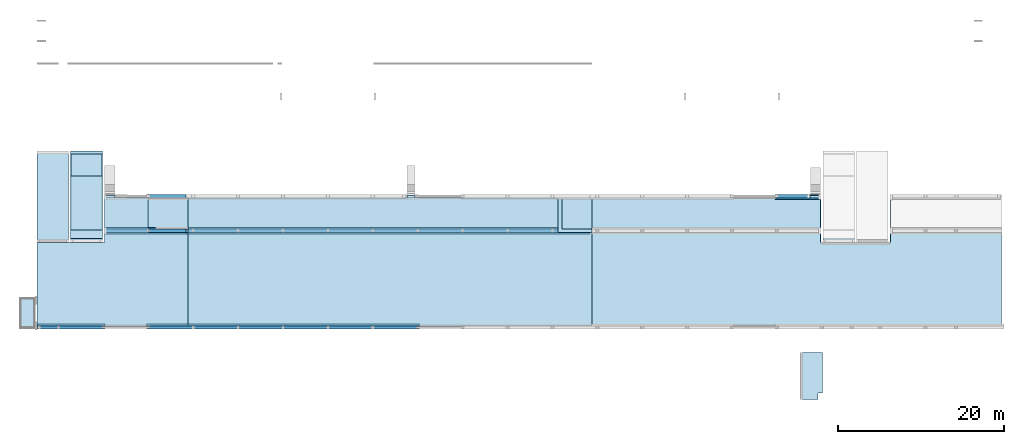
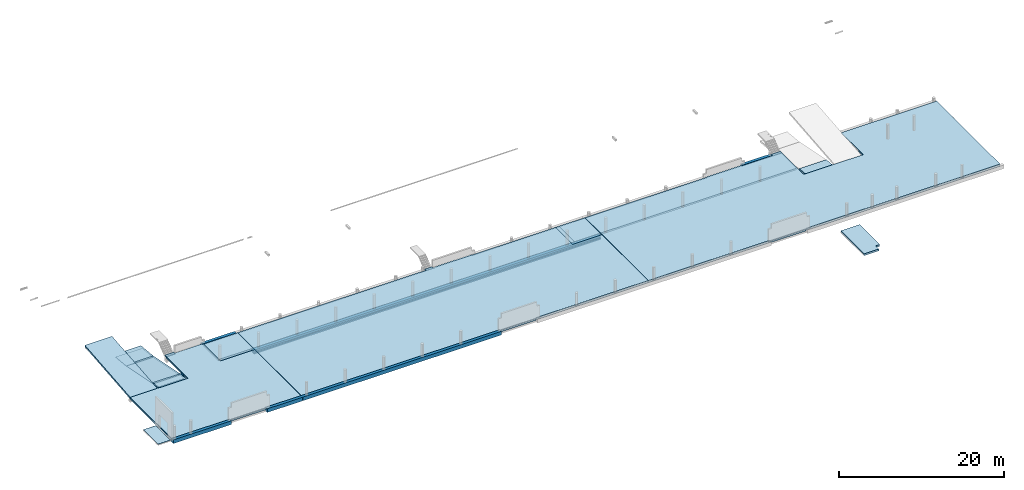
# One storey, part 3 of 6: 26 slabs, 6 beams, 2 openings.
"""IFC2X3 building model written with IfcOpenShell, lengths in millimetres."""

from ifc_helpers import new_model, entity, si_unit, converted_unit, derived_unit, direction, frame, frame_2d, origin, origin_2d_with_axis, place, context, subcontext, project, spatial, polyline, rectangle, outline, extrude, clip, halfspace, faceted_brep, source, transform, mapped, material, layer, layer_set, layer_usage, type_object, type_shapes, element, save


model = new_model("IFC2X3")

# Units and contexts
model_context = context("Model", 3, precision=0.01, world=origin(), true_north=direction((6.12303176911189e-17, 1.0)))
body_context = subcontext(model_context, "Body", "Model", "MODEL_VIEW")
ifc_project = project(units=[si_unit("LENGTHUNIT", "METRE", prefix="MILLI"), si_unit("AREAUNIT", "SQUARE_METRE"), si_unit("VOLUMEUNIT", "CUBIC_METRE"), converted_unit("PLANEANGLEUNIT", "DEGREE", entity("IfcRatioMeasure", 0.0174532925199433), si_unit("PLANEANGLEUNIT", "RADIAN"), dimensions=[0, 0, 0, 0, 0, 0, 0]), si_unit("MASSUNIT", "GRAM", prefix="KILO"), derived_unit("MASSDENSITYUNIT", [(si_unit("MASSUNIT", "GRAM", prefix="KILO"), 1), (si_unit("LENGTHUNIT", "METRE"), -3)]), si_unit("TIMEUNIT", "SECOND"), si_unit("FREQUENCYUNIT", "HERTZ"), si_unit("THERMODYNAMICTEMPERATUREUNIT", "DEGREE_CELSIUS"), derived_unit("THERMALTRANSMITTANCEUNIT", [(si_unit("MASSUNIT", "GRAM", prefix="KILO"), 1), (si_unit("THERMODYNAMICTEMPERATUREUNIT", "KELVIN"), -1), (si_unit("TIMEUNIT", "SECOND"), -3)]), derived_unit("VOLUMETRICFLOWRATEUNIT", [(si_unit("LENGTHUNIT", "METRE"), 3), (si_unit("TIMEUNIT", "SECOND"), -1)]), si_unit("ELECTRICCURRENTUNIT", "AMPERE"), si_unit("ELECTRICVOLTAGEUNIT", "VOLT"), si_unit("POWERUNIT", "WATT"), si_unit("FORCEUNIT", "NEWTON", prefix="KILO"), si_unit("ILLUMINANCEUNIT", "LUX"), si_unit("LUMINOUSFLUXUNIT", "LUMEN"), si_unit("LUMINOUSINTENSITYUNIT", "CANDELA"), derived_unit("USERDEFINED", [(si_unit("MASSUNIT", "GRAM", prefix="KILO"), -1), (si_unit("LENGTHUNIT", "METRE"), -2), (si_unit("TIMEUNIT", "SECOND"), 3), (si_unit("LUMINOUSFLUXUNIT", "LUMEN"), 1)]), derived_unit("LINEARVELOCITYUNIT", [(si_unit("LENGTHUNIT", "METRE"), 1), (si_unit("TIMEUNIT", "SECOND"), -1)]), si_unit("PRESSUREUNIT", "PASCAL"), derived_unit("USERDEFINED", [(si_unit("LENGTHUNIT", "METRE"), -2), (si_unit("MASSUNIT", "GRAM", prefix="KILO"), 1), (si_unit("TIMEUNIT", "SECOND"), -2)])], contexts=[model_context])

# Site, building, storey
site_placement = place(None, origin())
site = spatial("IfcSite", under=ifc_project, at=site_placement, Name="Default", CompositionType="ELEMENT")
building_placement = place(site_placement, origin())
building = spatial("IfcBuilding", under=site, at=building_placement, Name="niet gebruiken", CompositionType="ELEMENT")
storey_placement = place(building_placement, frame((0.0, 0.0, 8370.0)))
storey = spatial("IfcBuildingStorey", under=building, at=storey_placement, Name="02a eerste tussenverdieping", CompositionType="ELEMENT", Elevation=8369.99999999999)

# Beams
ifc_material_1 = material(Name="NLRS_f2_beton prefab")
beam_type_1 = type_object("IfcBeamType", Name="NLRS_28.11_SF_WPB_prefabbeton balk enkele sponning_gen:600x540/200x200", PredefinedType="BEAM")
beam_1_placement = place(storey_placement, frame((8245.0, 8996.0, -530.0)))
element("IfcBeam", 1, at=beam_1_placement, inside=storey, type_object=beam_type_1, material=ifc_material_1, Name="NLRS_28.11_SF_WPB_prefabbeton balk enkele sponning_gen:600x540/200x200", ObjectType="NLRS_28.11_SF_WPB_prefabbeton balk enkele sponning_gen:600x540/200x200", context=body_context, shape_type="Brep", body=[
    faceted_brep([(0.0, 0.0, 0.0), (0.0, 0.0, 540.0), (0.0, 400.0, 540.0), (0.0, 400.0, 530.0), (0.0, 400.0, 460.0), (0.0, 400.0, 200.0), (0.0, 600.0, 200.0), (0.0, 600.0, 0.0), (8155.0, 600.0, 200.0), (8155.0, 600.0, 0.0), (8155.0, 400.0, 540.0), (8155.0, 0.0, 540.0), (8155.0, 0.0, 0.0), (8155.0, 400.0, 200.0), (8155.0, 400.0, 460.0), (8155.0, 325.0, 460.0), (8155.0, 325.0, 530.0), (8155.0, 400.0, 530.0), (7755.0, 400.0, 530.0), (7755.0, 400.0, 460.0), (7755.0, 325.0, 460.0), (7755.0, 325.0, 530.0)], [[[0, 1, 2, 3, 4, 5, 6, 7]], [[7, 6, 8, 9]], [[10, 11, 12, 9, 8, 13, 14, 15, 16, 17]], [[2, 1, 11, 10]], [[2, 10, 17, 18, 19, 14, 13, 5, 4, 3]], [[6, 5, 13, 8]], [[0, 7, 9, 12]], [[1, 0, 12, 11]], [[19, 20, 15, 14]], [[20, 21, 16, 15]], [[20, 19, 18, 21]], [[21, 18, 17, 16]]]),
])
beam_2_placement = place(storey_placement, frame((97000.0, 24576.0, -530.0)))
element("IfcBeam", 2, at=beam_2_placement, inside=storey, type_object=beam_type_1, material=ifc_material_1, Name="NLRS_28.11_SF_WPB_prefabbeton balk enkele sponning_gen:600x540/200x200", ObjectType="NLRS_28.11_SF_WPB_prefabbeton balk enkele sponning_gen:600x540/200x200", context=body_context, shape_type="Brep", body=[
    faceted_brep([(0.0, 600.0, 0.0), (0.0, 0.0, 0.0), (0.0, 0.0, 200.0), (0.0, 200.0, 200.0), (0.0, 200.0, 460.0), (0.0, 200.0, 530.0), (0.0, 200.0, 540.0), (0.0, 600.0, 540.0), (5455.0, 200.0, 200.0), (5455.0, 0.0, 200.0), (5455.0, 0.0, 0.0), (5455.0, 600.0, 0.0), (5455.0, 600.0, 390.0), (5455.0, 200.0, 390.0), (4205.0, 200.0, 540.0), (4205.0, 600.0, 540.0), (4205.0, 200.0, 390.0), (4205.0, 200.0, 460.0), (4205.0, 200.0, 530.0), (4205.0, 600.0, 390.0)], [[[0, 1, 2, 3, 4, 5, 6, 7]], [[8, 9, 10, 11, 12, 13]], [[7, 6, 14, 15]], [[3, 8, 13, 16, 17, 18, 14, 6, 5, 4]], [[3, 2, 9, 8]], [[2, 1, 10, 9]], [[1, 0, 11, 10]], [[0, 7, 15, 19, 12, 11]], [[15, 14, 18, 17, 16, 19]], [[19, 16, 13, 12]]]),
])
beam_type_2 = type_object("IfcBeamType", Name="NLRS_28.11_SF_WPB_prefabbeton balk dubbele sponning_gen:800x460/200x260/200x260", PredefinedType="BEAM")
beam_3_placement = place(storey_placement, frame((26150.0, 20446.0, -530.0)))
element("IfcBeam", 3, at=beam_3_placement, inside=storey, type_object=beam_type_2, material=ifc_material_1, Name="NLRS_28.11_SF_WPB_prefabbeton balk dubbele sponning_gen:800x460/200x260/200x260", ObjectType="NLRS_28.11_SF_WPB_prefabbeton balk dubbele sponning_gen:800x460/200x260/200x260", context=body_context, shape_type="Brep", body=[
    faceted_brep([(0.0, 600.0, 460.0), (0.0, 600.0, 0.0), (0.0, 0.0, 0.0), (0.0, 0.0, 200.0), (0.0, 200.0, 200.0), (0.0, 200.0, 460.0), (48580.0, 600.0, 460.0), (48580.0, 200.0, 460.0), (48580.0, 200.0, 200.0), (48580.0, 0.0, 200.0), (48580.0, 0.0, 0.0), (48580.0, 800.0, 0.0), (48580.0, 800.0, 200.0), (48580.0, 600.0, 200.0), (220.0, 600.0, 200.0), (220.0, 600.0, 0.0), (220.0, 800.0, 200.0), (220.0, 800.0, 0.0)], [[[0, 1, 2, 3, 4, 5]], [[6, 7, 8, 9, 10, 11, 12, 13]], [[6, 0, 5, 7]], [[3, 2, 10, 9]], [[6, 13, 14, 15, 1, 0]], [[13, 12, 16, 14]], [[5, 4, 8, 7]], [[4, 3, 9, 8]], [[12, 11, 17, 16]], [[11, 10, 2, 1, 15, 17]], [[15, 14, 16, 17]]]),
])
beam_4_placement = place(storey_placement, frame((16345.0, 20446.0, -530.0)))
element("IfcBeam", 4, at=beam_4_placement, inside=storey, type_object=beam_type_2, material=ifc_material_1, Name="NLRS_28.11_SF_WPB_prefabbeton balk dubbele sponning_gen:800x460/200x260/200x260", ObjectType="NLRS_28.11_SF_WPB_prefabbeton balk dubbele sponning_gen:800x460/200x260/200x260", context=body_context, shape_type="Brep", body=[
    faceted_brep([(0.0, 600.0, 460.0), (0.0, 600.0, 200.0), (0.0, 800.0, 200.0), (0.0, 800.0, 0.0), (0.0, 0.0, 0.0), (0.0, 0.0, 200.0), (0.0, 200.0, 200.0), (0.0, 200.0, 460.0), (9785.0, 600.0, 0.0), (9785.0, 600.0, 460.0), (9785.0, 200.0, 460.0), (9785.0, 200.0, 200.0), (9785.0, 0.0, 200.0), (9785.0, 0.0, 0.0), (6105.0, 600.0, 0.0), (6105.0, 600.0, 200.0), (6105.0, 800.0, 200.0), (6105.0, 800.0, 0.0)], [[[0, 1, 2, 3, 4, 5, 6, 7]], [[8, 9, 10, 11, 12, 13]], [[9, 0, 7, 10]], [[5, 4, 13, 12]], [[1, 0, 9, 8, 14, 15]], [[2, 1, 15, 16]], [[7, 6, 11, 10]], [[6, 5, 12, 11]], [[3, 2, 16, 17]], [[4, 3, 17, 14, 8, 13]], [[15, 14, 17, 16]]]),
])
beam_type_3 = type_object("IfcBeamType", Name="600x540/200x200", PredefinedType="BEAM", material=ifc_material_1)
shared_shape = source(origin(), body_context, "Body", "SolidModel", [
    extrude(outline(polyline([(-250.0, -108.75), (-250.0, -308.749999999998), (350.0, -308.75), (350.0, 231.25), (-50.0, 231.250000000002), (-50.0, 221.250000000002), (-50.0, 151.250000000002), (-50.0, -108.75), (-250.0, -108.75)])), frame((26370.0, 9346.0, 8148.74999999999), z_axis=(-1.0, 0.0, 0.0), x_axis=(0.0, -1.0, 0.0)), (0.0, 0.0, -1.0), 27829.9999999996),
    faceted_brep([(21400.0, 8996.0, 7840.0), (21400.0, 8996.0, 8380.0), (21400.0, 9396.0, 8380.0), (21400.0, 9396.0, 8370.0), (21400.0, 9321.0, 8370.0), (21400.0, 9321.0, 8300.0), (21400.0, 9396.0, 8300.0), (21400.0, 9396.0, 8040.0), (21400.0, 9596.0, 8040.0), (21400.0, 9596.0, 7840.0), (26350.0, 9596.0, 8040.0), (26350.0, 9596.0, 7840.0), (26350.0, 8996.0, 8380.0), (26350.0, 9396.0, 8380.0), (21800.0, 9396.0, 8300.0), (21800.0, 9396.0, 8370.0), (26350.0, 9396.0, 8370.0), (26350.0, 9396.0, 8300.0), (26350.0, 9396.0, 8040.0), (26350.0, 8996.0, 7840.0), (21800.0, 9321.0, 8300.0), (21800.0, 9321.0, 8370.0)], [[[0, 1, 2, 3, 4, 5, 6, 7, 8, 9]], [[9, 8, 10, 11]], [[2, 1, 12, 13]], [[7, 6, 14, 15, 3, 2, 13, 16, 17, 18]], [[8, 7, 18, 10]], [[0, 9, 11, 19]], [[1, 0, 19, 12]], [[20, 14, 6, 5]], [[14, 20, 21, 15]], [[21, 20, 5, 4]], [[15, 21, 4, 3]], [[11, 10, 18, 17, 16, 13, 12, 19]]]),
])
type_shapes(beam_type_3, [shared_shape])
beam_5_placement = place(storey_placement, frame((0.0, 0.0, -8370.0)))
element("IfcBeam", 5, at=beam_5_placement, inside=storey, type_object=beam_type_3, material=ifc_material_1, Name="NLRS_28.11_SF_WPB_prefabbeton balk enkele sponning_gen:600x540/200x200", ObjectType="600x540/200x200", context=body_context, shape_type="MappedRepresentation", body=[
    mapped(shared_shape, transform((0.0, 0.0, 0.0), scale=1.0)),
])
beam_type_4 = type_object("IfcBeamType", Name="NLRS_28.11_SF_WPB_prefabbeton balk recht_gen:400x540", PredefinedType="BEAM")
beam_6_placement = place(storey_placement, frame((21400.0, 24776.0, -530.0)))
element("IfcBeam", 6, at=beam_6_placement, inside=storey, type_object=beam_type_4, material=ifc_material_1, Name="NLRS_28.11_SF_WPB_prefabbeton balk recht_gen:400x540", ObjectType="NLRS_28.11_SF_WPB_prefabbeton balk recht_gen:400x540", context=body_context, shape_type="Brep", body=[
    faceted_brep([(0.0, 0.0, 540.0), (0.0, 400.0, 540.0), (0.0, 400.0, 0.0), (0.0, 0.0, 0.0), (0.0, 0.0, 460.0), (0.0, 75.0, 460.0), (0.0, 75.0, 530.0), (0.0, 0.0, 530.0), (4730.0, 0.0, 540.0), (4730.0, 400.0, 540.0), (400.0, 0.0, 460.0), (400.0, 75.0, 460.0), (200.0, 75.0, 460.0), (400.0, 75.0, 530.0), (400.0, 0.0, 530.0), (200.0, 75.0, 530.0), (4730.0, 0.0, 530.0), (4730.0, 0.0, 460.0), (4730.0, 0.0, 0.0), (4730.0, 400.0, 0.0)], [[[0, 1, 2, 3, 4, 5, 6, 7]], [[8, 9, 1, 0]], [[5, 4, 10, 11, 12]], [[13, 14, 7, 6, 15]], [[5, 12, 11, 13, 15, 6]], [[11, 10, 14, 13]], [[9, 8, 16, 17, 18, 19]], [[3, 18, 17, 16, 8, 0, 7, 14, 10, 4]], [[3, 2, 19, 18]], [[2, 1, 9, 19]]]),
])

# Slabs
ifc_layer_1 = layer(ifc_material_1, 255.0)
ifc_layer_set_1 = layer_set([ifc_layer_1], Name="Floor:NLRS_23.21_FL_kanaalplaat d=255_gen")
ifc_layer_usage_1 = layer_usage(ifc_layer_set_1, "AXIS3", "POSITIVE", 0.0)
slab_1_placement = place(storey_placement, origin())
element("IfcSlab", 7, at=slab_1_placement, inside=storey, material=ifc_layer_usage_1, Name="Floor:NLRS_23.21_FL_kanaalplaat d=255_gen", ObjectType="Floor:NLRS_23.21_FL_kanaalplaat d=255_gen", PredefinedType="FLOOR", context=body_context, shape_type="SweptSolid", body=[
    extrude(outline(polyline([(-4225.0, -9503.0), (5765.0, -9503.0), (5765.0, -1403.0), (6985.0, -1403.0), (6985.0, 8602.0), (-4225.0, 8602.0), (-4225.0, 3632.0), (-4300.0, 3632.0), (-4300.0, -1328.0), (-4225.0, -1328.0), (-4225.0, -9503.0)])), frame((17748.0, 13641.0, -70.0), z_axis=(0.0, 0.0, -1.0), x_axis=(0.0, 1.0, 0.0)), (0.0, 0.0, 1.0), 255.000000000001),
])
ifc_layer_usage_2 = layer_usage(ifc_layer_set_1, "AXIS3", "POSITIVE", 0.0)
slab_2_placement = place(storey_placement, origin())
element("IfcSlab", 8, at=slab_2_placement, inside=storey, material=ifc_layer_usage_2, Name="Floor:NLRS_23.21_FL_kanaalplaat d=255_gen", ObjectType="Floor:NLRS_23.21_FL_kanaalplaat d=255_gen", PredefinedType="FLOOR", context=body_context, shape_type="SweptSolid", body=[
    extrude(outline(polyline([(-2789.15026572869, -3258.75000000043), (902.050088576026, -3258.75000000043), (902.050088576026, -483.749999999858), (977.050088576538, -483.749999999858), (977.050088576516, 1776.25000000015), (910.050088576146, 1776.25000000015), (910.050088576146, 1966.25000000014), (-2789.15026572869, 1966.25000000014), (-2789.15026572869, -3258.75000000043)])), frame((19603.7499999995, 23853.9499114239, -70.0), z_axis=(0.0, 0.0, -1.0), x_axis=(0.0, 1.0, 0.0)), (0.0, 0.0, 1.0), 255.000000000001),
])
ifc_layer_usage_3 = layer_usage(ifc_layer_set_1, "AXIS3", "POSITIVE", 0.0)
slab_3_placement = place(storey_placement, origin())
element("IfcSlab", 9, at=slab_3_placement, inside=storey, material=ifc_layer_usage_3, Name="Floor:NLRS_23.21_FL_kanaalplaat d=255_gen", ObjectType="Floor:NLRS_23.21_FL_kanaalplaat d=255_gen", PredefinedType="FLOOR", context=body_context, shape_type="SweptSolid", body=[
    extrude(outline(polyline([(-2783.75, -27310.0), (8426.2500000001, -27310.0), (8426.25000000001, 21270.0), (-2783.75000000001, 21270.0), (-2783.75000000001, 5500.0), (-2858.75000000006, 5500.0), (-2858.75000000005, 540.0), (-2783.75, 540.0), (-2783.75, -27310.0)])), frame((53680.0, 12199.7500000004, -70.0), z_axis=(0.0, 0.0, -1.0), x_axis=(0.0, 1.0, 0.0)), (0.0, 0.0, 1.0), 255.000000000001),
])
ifc_layer_usage_4 = layer_usage(ifc_layer_set_1, "AXIS3", "POSITIVE", 0.0)
slab_4_placement = place(storey_placement, origin())
element("IfcSlab", 10, at=slab_4_placement, inside=storey, material=ifc_layer_usage_4, Name="Floor:NLRS_23.21_FL_kanaalplaat d=255_gen", ObjectType="Floor:NLRS_23.21_FL_kanaalplaat d=255_gen", PredefinedType="FLOOR", context=body_context, shape_type="SweptSolid", body=[
    extrude(outline(polyline([(-5389.16666666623, -25275.0), (5820.83333333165, -25275.0), (5820.8333333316, 2210.0), (4600.8333333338, 2210.0), (4600.83333333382, 10600.0), (5820.83333333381, 10600.0), (5820.83333333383, 23955.0), (-5389.16666666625, 23955.0), (-5389.16666666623, -3265.0), (-5464.16666666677, -3265.0), (-5464.16666666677, -8225.0), (-5389.16666666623, -8225.0), (-5389.16666666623, -25275.0)])), frame((100245.0, 14805.1666666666, -70.0), z_axis=(0.0, 0.0, -1.0), x_axis=(0.0, 1.0, 0.0)), (0.0, 0.0, 1.0), 255.000000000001),
])
ifc_material_2 = material(Name="NLRS_f2_beton ihwg")
ifc_layer_2 = layer(ifc_material_2, 70.0)
ifc_layer_set_2 = layer_set([ifc_layer_2], Name="Floor:NLRS_23.21_FL_druklaag d=70 - gevlinderd en ingestrooid_gen")
ifc_layer_usage_5 = layer_usage(ifc_layer_set_2, "AXIS3", "POSITIVE", 0.0)
slab_5_placement = place(storey_placement, origin())
element("IfcSlab", 11, at=slab_5_placement, inside=storey, material=ifc_layer_usage_5, Name="Floor:NLRS_23.21_FL_druklaag d=70 - gevlinderd en ingestrooid_gen", ObjectType="Floor:NLRS_23.21_FL_druklaag d=70 - gevlinderd en ingestrooid_gen", PredefinedType="FLOOR", context=body_context, shape_type="SweptSolid", body=[
    extrude(outline(polyline([(-9692.22222222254, -24105.0), (5687.77777777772, -24105.0), (5687.7777777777, -7075.0), (5762.77777777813, -7075.0), (5762.77777777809, -2075.0), (5687.77777777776, -2075.0), (5687.77777777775, 2130.0), (5987.7777777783, 2130.0), (5987.7777777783, 3400.0), (337.77777777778, 3400.0), (337.777777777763, 11750.0), (5687.77777777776, 11750.0), (5687.77777777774, 25125.0), (-9692.2222222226, 25125.0), (-9692.22222222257, -2075.0), (-9767.22222222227, -2075.0), (-9767.22222222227, -7075.0), (-9692.22222222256, -7075.0), (-9692.22222222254, -24105.0)])), frame((99075.0, 19088.2222222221, 0.0), z_axis=(0.0, 0.0, -1.0), x_axis=(0.0, 1.0, 0.0)), (0.0, 0.0, 1.0), 70.0000000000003),
])
ifc_layer_usage_6 = layer_usage(ifc_layer_set_2, "AXIS3", "POSITIVE", 0.0)
slab_6_placement = place(storey_placement, origin())
element("IfcSlab", 12, at=slab_6_placement, inside=storey, material=ifc_layer_usage_6, Name="Floor:NLRS_23.21_FL_druklaag d=70 - gevlinderd en ingestrooid_gen", ObjectType="Floor:NLRS_23.21_FL_druklaag d=70 - gevlinderd en ingestrooid_gen", PredefinedType="FLOOR", context=body_context, shape_type="SweptSolid", body=[
    extrude(outline(polyline([(-7474.2857142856, -10045.7142857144), (2555.71428571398, -10045.7142857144), (2555.71428571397, -1945.71428571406), (8205.71428571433, -1945.71428571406), (8205.71428571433, -675.71428571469), (7980.71428571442, -675.714285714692), (7980.71428571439, 3329.28571428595), (3755.71428571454, 3329.28571428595), (3755.71428571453, 8079.28571428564), (-7474.2857142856, 8079.28571428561), (-7474.2857142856, 3529.28571428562), (-7549.28571428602, 3529.28571428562), (-7549.28571428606, -2270.71428571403), (-7474.2857142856, -2270.71428571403), (-7474.2857142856, -10045.7142857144)])), frame((18270.714285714, 16870.285714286, 0.0), z_axis=(0.0, 0.0, -1.0), x_axis=(0.0, 1.0, 0.0)), (0.0, 0.0, 1.0), 70.0000000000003),
])
ifc_layer_usage_7 = layer_usage(ifc_layer_set_2, "AXIS3", "POSITIVE", 0.0)
slab_7_placement = place(storey_placement, origin())
element("IfcSlab", 13, at=slab_7_placement, inside=storey, material=ifc_layer_usage_7, Name="Floor:NLRS_23.21_FL_druklaag d=70 - gevlinderd en ingestrooid_gen", ObjectType="Floor:NLRS_23.21_FL_druklaag d=70 - gevlinderd en ingestrooid_gen", PredefinedType="FLOOR", context=body_context, shape_type="SweptSolid", body=[
    extrude(outline(polyline([(-9131.2499999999, -30025.0), (6248.74999999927, -30025.0), (6248.74999999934, -3695.0), (6548.74999999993, -3695.0), (6548.74999999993, -2705.0), (6323.75000000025, -2705.0), (6323.75000000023, 2805.0), (6248.75000000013, 2805.0), (6248.75000000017, 14455.0), (2098.75000000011, 14455.0), (2098.7500000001, 18555.0), (-9131.24999999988, 18555.0), (-9131.24999999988, 2805.0), (-9206.24999999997, 2805.0), (-9206.24999999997, -2195.0), (-9131.24999999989, -2195.0), (-9131.2499999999, -30025.0)])), frame((56395.0, 18527.2499999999, 0.0), z_axis=(0.0, 0.0, -1.0), x_axis=(0.0, 1.0, 0.0)), (0.0, 0.0, 1.0), 70.0000000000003),
])
ifc_layer_usage_8 = layer_usage(ifc_layer_set_1, "AXIS3", "POSITIVE", 0.0)
slab_8_placement = place(storey_placement, origin())
element("IfcSlab", 14, at=slab_8_placement, inside=storey, material=ifc_layer_usage_8, Name="Floor:NLRS_23.21_FL_kanaalplaat d=255_gen", ObjectType="Floor:NLRS_23.21_FL_kanaalplaat d=255_gen", PredefinedType="FLOOR", context=body_context, shape_type="SweptSolid", body=[
    extrude(outline(polyline([(-2786.25000000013, -16636.2500000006), (903.749999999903, -16636.2500000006), (903.749999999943, 413.750000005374), (978.750000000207, 413.750000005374), (978.750000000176, 5373.74999999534), (903.749999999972, 5373.74999999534), (903.749999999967, 10848.7499999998), (-2786.25000000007, 10848.7499999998), (-2786.25000000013, -16636.2500000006)])), frame((91606.2499999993, 23852.25, -70.0), z_axis=(0.0, 0.0, -1.0), x_axis=(0.0, 1.0, 0.0)), (0.0, 0.0, 1.0), 255.000000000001),
])
ifc_layer_usage_9 = layer_usage(ifc_layer_set_1, "AXIS3", "POSITIVE", 0.0)
slab_9_placement = place(storey_placement, origin())
element("IfcSlab", 15, at=slab_9_placement, inside=storey, material=ifc_layer_usage_9, Name="Floor:NLRS_23.21_FL_kanaalplaat d=255_gen", ObjectType="Floor:NLRS_23.21_FL_kanaalplaat d=255_gen", PredefinedType="FLOOR", context=body_context, shape_type="SweptSolid", body=[
    extrude(outline(polyline([(-2786.25000000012, -26385.0), (903.74999999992, -26385.0), (903.74999999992, 1365.0), (978.750000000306, 1365.0), (978.750000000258, 6425.0), (903.74999999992, 6425.0), (903.74999999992, 18595.0), (-2786.25000000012, 18595.0), (-2786.25000000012, -26385.0)])), frame((52755.0, 23852.25, -70.0), z_axis=(0.0, 0.0, -1.0), x_axis=(0.0, 1.0, 0.0)), (0.0, 0.0, 1.0), 255.000000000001),
])
ifc_layer_usage_10 = layer_usage(ifc_layer_set_2, "AXIS3", "POSITIVE", 0.0)
slab_10_placement = place(storey_placement, origin())
element("IfcSlab", 16, at=slab_10_placement, inside=storey, material=ifc_layer_usage_10, Name="Floor:NLRS_23.21_FL_druklaag d=70 - gevlinderd en ingestrooid_gen", ObjectType="Floor:NLRS_23.21_FL_druklaag d=70 - gevlinderd en ingestrooid_gen", PredefinedType="FLOOR", context=body_context, shape_type="SweptSolid", body=[
    extrude(outline(polyline([(-2791.66666666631, -1650.0), (1433.33333333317, -1650.0), (1433.33333333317, -1450.0), (1358.33333333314, -1450.0), (1358.33333333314, 3100.0), (-2791.66666666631, 3100.0), (-2791.66666666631, -1650.0)])), frame((23250.0, 23417.6666666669, 0.0), z_axis=(0.0, 0.0, -1.0), x_axis=(0.0, 1.0, 0.0)), (0.0, 0.0, 1.0), 70.0000000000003),
])
ifc_layer_usage_11 = layer_usage(ifc_layer_set_1, "AXIS3", "POSITIVE", 0.0)
slab_11_placement = place(storey_placement, origin())
element("IfcSlab", 17, at=slab_11_placement, inside=storey, material=ifc_layer_usage_11, Name="Floor:NLRS_23.21_FL_kanaalplaat d=255_gen", ObjectType="Floor:NLRS_23.21_FL_kanaalplaat d=255_gen", PredefinedType="FLOOR", context=body_context, shape_type="SweptSolid", body=[
    extrude(rectangle(XDim=3689.99999999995, YDim=4780.00000000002, at=origin_2d_with_axis()), frame((23960.0, 22911.0, -70.0), z_axis=(0.0, 0.0, -1.0), x_axis=(0.0, 1.0, 0.0)), (0.0, 0.0, 1.0), 255.000000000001),
])
ifc_layer_usage_12 = layer_usage(ifc_layer_set_1, "AXIS3", "POSITIVE", 0.0)
slab_12_placement = place(storey_placement, origin())
element("IfcSlab", 18, at=slab_12_placement, inside=storey, material=ifc_layer_usage_12, Name="Floor:NLRS_23.21_FL_kanaalplaat d=255_gen", ObjectType="Floor:NLRS_23.21_FL_kanaalplaat d=255_gen", PredefinedType="FLOOR", context=body_context, shape_type="SweptSolid", body=[
    extrude(rectangle(XDim=3690.00000000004, YDim=3600.0, at=frame_2d((-2.1600499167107e-12, 0.0), x_axis=(1.0, 0.0))), frame((73150.0, 22911.0, -70.0), z_axis=(0.0, 0.0, -1.0), x_axis=(0.0, 1.0, 0.0)), (0.0, 0.0, 1.0), 255.000000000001),
])
ifc_layer_usage_13 = layer_usage(ifc_layer_set_2, "AXIS3", "POSITIVE", 0.0)
slab_13_placement = place(storey_placement, origin())
element("IfcSlab", 19, at=slab_13_placement, inside=storey, material=ifc_layer_usage_13, Name="Floor:NLRS_23.21_FL_druklaag d=70 - gevlinderd en ingestrooid_gen", ObjectType="Floor:NLRS_23.21_FL_druklaag d=70 - gevlinderd en ingestrooid_gen", PredefinedType="FLOOR", context=body_context, shape_type="SweptSolid", body=[
    extrude(rectangle(XDim=4150.00000000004, YDim=4099.99999999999, at=frame_2d((0.0, 4.32009983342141e-12), x_axis=(1.0, 0.0))), frame((72900.0, 22701.0, 0.0), z_axis=(0.0, 0.0, -1.0), x_axis=(0.0, 1.0, 0.0)), (0.0, 0.0, 1.0), 70.0000000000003),
])
ifc_layer_3 = layer(ifc_material_2, 270.0)
ifc_layer_set_3 = layer_set([ifc_layer_3], Name="Floor:NLRS_23.21_FL_beton ihwg d=270_gen")
ifc_layer_usage_14 = layer_usage(ifc_layer_set_3, "AXIS3", "POSITIVE", 0.0)
slab_14_placement = place(storey_placement, origin())
element("IfcSlab", 20, at=slab_14_placement, inside=storey, material=ifc_layer_usage_14, Name="Floor:NLRS_23.21_FL_beton ihwg d=270_gen", ObjectType="Floor:NLRS_23.21_FL_beton ihwg d=270_gen", PredefinedType="FLOOR", context=body_context, shape_type="SweptSolid", body=[
    extrude(outline(polyline([(-2136.66666666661, -1560.00009290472), (3508.33333333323, -1560.00009290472), (3508.33333333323, 1054.9999070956), (-1371.66666666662, 1054.9999070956), (-1371.66666666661, 505.00018580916), (-2136.66666666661, 505.00018580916), (-2136.66666666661, -1560.00009290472)])), frame((101620.0, 2671.66666666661, 540.0), z_axis=(0.0, 0.0, -1.0), x_axis=(0.0, 1.0, 0.0)), (0.0, 0.0, 1.0), 270.0),
])
ifc_layer_4 = layer(ifc_material_2, 250.0)
ifc_layer_set_4 = layer_set([ifc_layer_4], Name="Floor:NLRS_23.21_FL_breedplaat d=70/250_opgeruwd_schil apart_gen")
ifc_layer_usage_15 = layer_usage(ifc_layer_set_4, "AXIS3", "POSITIVE", 0.0)
slab_15_placement = place(storey_placement, frame((12275.0, 19426.0, -330.955823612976)))
element("IfcSlab", 21, at=slab_15_placement, inside=storey, material=ifc_layer_usage_15, Name="Floor:NLRS_23.21_FL_breedplaat d=70/250_opgeruwd_schil apart_gen", ObjectType="Floor:NLRS_23.21_FL_breedplaat d=70/250_opgeruwd_schil apart_gen", PredefinedType="FLOOR", context=body_context, shape_type="SweptSolid", body=[
    extrude(rectangle(XDim=1507.48134316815, YDim=3799.99999999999, at=frame_2d((0.0, -753.740671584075), x_axis=(0.0, -1.0))), frame((1900.0, 1500.0, 180.955823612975), z_axis=(0.0, 0.0995037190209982, 0.995037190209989), x_axis=(1.0, 0.0, 0.0)), (0.0, 0.0995037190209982, -0.995037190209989), 251.246890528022),
])
ifc_layer_usage_16 = layer_usage(ifc_layer_set_4, "AXIS3", "POSITIVE", 0.0)
slab_16_placement = place(storey_placement, frame((12275.0, 20926.0, -1715.02668383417)))
element("IfcSlab", 22, at=slab_16_placement, inside=storey, material=ifc_layer_usage_16, Name="Floor:NLRS_23.21_FL_breedplaat d=70/250_opgeruwd_schil apart_gen", ObjectType="Floor:NLRS_23.21_FL_breedplaat d=70/250_opgeruwd_schil apart_gen", PredefinedType="FLOOR", context=body_context, shape_type="SweptSolid", body=[
    extrude(rectangle(XDim=6630.69377968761, YDim=3800.0, at=frame_2d((0.0, -3315.34688984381), x_axis=(0.0, -1.0))), frame((1900.0, 6500.0, 255.026683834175), z_axis=(0.0, 0.197566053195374, 0.980289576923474), x_axis=(1.0, 0.0, 0.0)), (0.0, 0.197566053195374, -0.980289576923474), 255.026683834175),
])

# Slab, opening
ifc_layer_usage_17 = layer_usage(ifc_layer_set_4, "AXIS3", "POSITIVE", 0.0)
slab_17_placement = place(storey_placement, frame((12275.0, 27426.0, -2011.24689052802)))
slab_17 = element("IfcSlab", 23, at=slab_17_placement, inside=storey, material=ifc_layer_usage_17, Name="Floor:NLRS_23.21_FL_breedplaat d=70/250_opgeruwd_schil apart_gen", ObjectType="Floor:NLRS_23.21_FL_breedplaat d=70/250_opgeruwd_schil apart_gen", PredefinedType="FLOOR", context=body_context, shape_type="SweptSolid", body=[
    extrude(rectangle(XDim=3799.99999999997, YDim=3014.96268633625, at=frame_2d((0.0, -1507.48134316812), x_axis=(-1.0, 0.0))), frame((1900.0, 3000.0, 251.246890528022), z_axis=(0.0, 0.0995037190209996, 0.995037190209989), x_axis=(1.0, 0.0, 0.0)), (0.0, 0.0995037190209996, -0.995037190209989), 251.246890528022),
])
opening_1_placement = place(slab_17_placement, origin())
element("IfcOpeningElement", 24, at=opening_1_placement, cuts=slab_17, ObjectType="Opening", context=body_context, shape_type="SweptSolid", body=[
    extrude(rectangle(XDim=3760.0, YDim=380.0, at=origin_2d_with_axis()), frame((1900.0, 2810.0, -213.753109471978)), (0.0, 0.0, 1.0), 250.000000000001),
])

# Slabs
ifc_layer_5 = layer(ifc_material_1, 70.0)
ifc_layer_set_5 = layer_set([ifc_layer_5], Name="Floor:NLRS_23.21_FL_breedplaatschil d=70_gen")
ifc_layer_usage_18 = layer_usage(ifc_layer_set_5, "AXIS3", "POSITIVE", 0.0)
slab_18_placement = place(storey_placement, origin())
element("IfcSlab", 25, at=slab_18_placement, inside=storey, material=ifc_layer_usage_18, Name="Floor:NLRS_23.21_FL_breedplaatschil d=70_gen", ObjectType="Floor:NLRS_23.21_FL_breedplaatschil d=70_gen", PredefinedType="FLOOR", context=body_context, shape_type="Clipping", body=[
    clip(clip(extrude(rectangle(XDim=1045.18706459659, YDim=3799.99999999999, at=origin_2d_with_axis()), frame((14175.0, 20406.0, -278.955823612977), z_axis=(0.0, -0.0995037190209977, -0.995037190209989), x_axis=(0.0, 0.995037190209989, -0.0995037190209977)), (0.0995037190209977, 0.0, 0.995037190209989), 70.7000000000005), halfspace(frame((14175.0, 20926.0, -330.955823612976), z_axis=(0.0, 0.0995037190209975, 0.995037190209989), x_axis=(0.0, 0.995037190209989, -0.0995037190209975)), False)), halfspace(frame((14175.0, 20926.0, -401.304952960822), z_axis=(0.0, -0.0995037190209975, -0.995037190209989), x_axis=(0.0, -0.995037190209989, 0.0995037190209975)), False)),
])
ifc_layer_usage_19 = layer_usage(ifc_layer_set_5, "AXIS3", "POSITIVE", 0.0)
slab_19_placement = place(storey_placement, origin())
element("IfcSlab", 26, at=slab_19_placement, inside=storey, material=ifc_layer_usage_19, Name="Floor:NLRS_23.21_FL_breedplaatschil d=70_gen", ObjectType="Floor:NLRS_23.21_FL_breedplaatschil d=70_gen", PredefinedType="FLOOR", context=body_context, shape_type="Clipping", body=[
    clip(clip(extrude(rectangle(XDim=6630.69377968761, YDim=3760.0, at=origin_2d_with_axis()), frame((14175.0, 24176.0, -988.61921236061), z_axis=(0.0, -0.197566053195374, -0.980289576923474), x_axis=(0.0, 0.980289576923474, -0.197566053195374)), (0.197566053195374, 0.0, 0.980289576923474), 72.8432426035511), halfspace(frame((14175.0, 27426.0, -1715.02668383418), z_axis=(0.0, -0.197566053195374, -0.980289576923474), x_axis=(0.0, -0.980289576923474, 0.197566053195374)), False)), halfspace(frame((14175.0, 27426.0, -1643.61921236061), z_axis=(0.0, 0.197566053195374, 0.980289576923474), x_axis=(0.0, 0.980289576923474, -0.197566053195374)), False)),
])
ifc_layer_usage_20 = layer_usage(ifc_layer_set_5, "AXIS3", "POSITIVE", 0.0)
slab_20_placement = place(storey_placement, origin())
element("IfcSlab", 27, at=slab_20_placement, inside=storey, material=ifc_layer_usage_20, Name="Floor:NLRS_23.21_FL_breedplaatschil d=70_gen", ObjectType="Floor:NLRS_23.21_FL_breedplaatschil d=70_gen", PredefinedType="FLOOR", context=body_context, shape_type="Clipping", body=[
    clip(clip(extrude(rectangle(XDim=2653.1671639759, YDim=3759.99999999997, at=origin_2d_with_axis()), frame((14175.0, 28746.0, -1772.89776118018), z_axis=(0.0, -0.0995037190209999, -0.995037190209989), x_axis=(0.0, 0.995037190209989, -0.0995037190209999)), (0.0995037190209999, 0.0, 0.995037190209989), 70.7000000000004), halfspace(frame((14175.0, 30426.0, -2011.24689052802), z_axis=(0.0, -0.0995037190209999, -0.995037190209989), x_axis=(0.0, -0.995037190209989, 0.0995037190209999)), False)), halfspace(frame((14175.0, 30426.0, -1940.89776118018), z_axis=(0.0, 0.0995037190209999, 0.995037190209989), x_axis=(0.0, 0.995037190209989, -0.0995037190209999)), False)),
])
ifc_layer_usage_21 = layer_usage(ifc_layer_set_4, "AXIS3", "POSITIVE", 0.0)
slab_21_placement = place(storey_placement, frame((102725.0, 19426.0, -330.955823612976)))
element("IfcSlab", 28, at=slab_21_placement, inside=storey, material=ifc_layer_usage_21, Name="Floor:NLRS_23.21_FL_breedplaat d=70/250_opgeruwd_schil apart_gen", ObjectType="Floor:NLRS_23.21_FL_breedplaat d=70/250_opgeruwd_schil apart_gen", PredefinedType="FLOOR", context=body_context, shape_type="SweptSolid", body=[
    extrude(rectangle(XDim=3799.99999999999, YDim=1507.48134316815, at=frame_2d((0.0, -753.740671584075), x_axis=(-1.0, 0.0))), frame((1900.0, 1500.0, 180.955823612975), z_axis=(0.0, 0.0995037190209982, 0.995037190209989), x_axis=(1.0, 0.0, 0.0)), (0.0, 0.0995037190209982, -0.995037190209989), 251.246890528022),
])

# Slab, opening
ifc_layer_usage_22 = layer_usage(ifc_layer_set_4, "AXIS3", "POSITIVE", 0.0)
slab_22_placement = place(storey_placement, frame((8225.0, 19426.0, -251.06203611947)))
slab_22 = element("IfcSlab", 29, at=slab_22_placement, inside=storey, material=ifc_layer_usage_22, Name="Floor:NLRS_23.21_FL_breedplaat d=70/250_opgeruwd_schil apart_gen", ObjectType="Floor:NLRS_23.21_FL_breedplaat d=70/250_opgeruwd_schil apart_gen", PredefinedType="FLOOR", context=body_context, shape_type="SweptSolid", body=[
    extrude(rectangle(XDim=3799.99999999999, YDim=11049.0542581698, at=frame_2d((0.0, 5525.08843574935), x_axis=(-1.0, 0.0))), frame((1900.0, -0.558814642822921, 251.062036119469), z_axis=(0.0, -0.094125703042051, 0.995560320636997), x_axis=(1.0, 0.0, 0.0)), (0.0, -0.094125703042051, -0.995560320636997), 251.11486950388),
])
opening_2_placement = place(slab_22_placement, origin())
element("IfcOpeningElement", 30, at=opening_2_placement, cuts=slab_22, ObjectType="Opening", context=body_context, shape_type="SweptSolid", body=[
    extrude(rectangle(XDim=3760.0, YDim=380.0, at=origin_2d_with_axis()), frame((1900.0, 190.0, -213.937963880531)), (0.0, 0.0, 1.0), 250.000000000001),
])

# Slabs
ifc_layer_6 = layer(ifc_material_2, 70.0)
ifc_layer_set_6 = layer_set([ifc_layer_6], Name="Floor:NLRS_23.21_FL_druklaag d=70_gen")
ifc_layer_usage_23 = layer_usage(ifc_layer_set_6, "AXIS3", "POSITIVE", 0.0)
slab_23_placement = place(storey_placement, origin())
element("IfcSlab", 31, at=slab_23_placement, inside=storey, material=ifc_layer_usage_23, Name="Floor:NLRS_23.21_FL_druklaag d=70_gen", ObjectType="Floor:NLRS_23.21_FL_druklaag d=70_gen", PredefinedType="FLOOR", context=body_context, shape_type="SweptSolid", body=[
    extrude(rectangle(XDim=320.000000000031, YDim=989.999999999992, at=frame_2d((0.0, 4.34852154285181e-12), x_axis=(1.0, 0.0))), frame((53195.0, 24916.0, -70.0), z_axis=(0.0, 0.0, -1.0), x_axis=(0.0, 1.0, 0.0)), (0.0, 0.0, 1.0), 70.0000000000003),
])
ifc_layer_usage_24 = layer_usage(ifc_layer_set_6, "AXIS3", "POSITIVE", 0.0)
slab_24_placement = place(storey_placement, origin())
element("IfcSlab", 32, at=slab_24_placement, inside=storey, material=ifc_layer_usage_24, Name="Floor:NLRS_23.21_FL_druklaag d=70_gen", ObjectType="Floor:NLRS_23.21_FL_druklaag d=70_gen", PredefinedType="FLOOR", context=body_context, shape_type="SweptSolid", body=[
    extrude(rectangle(XDim=320.000000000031, YDim=1270.00000000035, at=frame_2d((0.0, 8.69704308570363e-12), x_axis=(1.0, 0.0))), frame((101840.0, 24916.0, -70.0), z_axis=(0.0, 0.0, -1.0), x_axis=(0.0, 1.0, 0.0)), (0.0, 0.0, 1.0), 70.0000000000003),
])
ifc_layer_usage_25 = layer_usage(ifc_layer_set_6, "AXIS3", "POSITIVE", 0.0)
slab_25_placement = place(storey_placement, origin())
element("IfcSlab", 33, at=slab_25_placement, inside=storey, material=ifc_layer_usage_25, Name="Floor:NLRS_23.21_FL_druklaag d=70_gen", ObjectType="Floor:NLRS_23.21_FL_druklaag d=70_gen", PredefinedType="FLOOR", context=body_context, shape_type="SweptSolid", body=[
    extrude(rectangle(XDim=320.000000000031, YDim=1269.99999999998, at=frame_2d((0.0, -1.08002495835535e-12), x_axis=(1.0, 0.0))), frame((16960.0, 24916.0, -70.0), z_axis=(0.0, 0.0, -1.0), x_axis=(0.0, 1.0, 0.0)), (0.0, 0.0, 1.0), 70.0000000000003),
])
ifc_material_3 = material(Name="NLRS_h2_roostervloer staal")
ifc_layer_7 = layer(ifc_material_3, 30.0)
ifc_layer_set_7 = layer_set([ifc_layer_7], Name="Floor:NLRS_23.11_FL_stalen roostervloer d=30_gen")
ifc_layer_usage_26 = layer_usage(ifc_layer_set_7, "AXIS3", "POSITIVE", 0.0)
slab_26_placement = place(storey_placement, origin())
element("IfcSlab", 34, at=slab_26_placement, inside=storey, material=ifc_layer_usage_26, Name="Floor:NLRS_23.11_FL_stalen roostervloer d=30_gen", ObjectType="Floor:NLRS_23.11_FL_stalen roostervloer d=30_gen", PredefinedType="FLOOR", context=body_context, shape_type="SweptSolid", body=[
    extrude(rectangle(XDim=3560.00000000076, YDim=1759.99999999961, at=frame_2d((1.02318153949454e-12, 5.11590769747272e-13), x_axis=(1.0, 0.0))), frame((7075.0, 10936.0, -5.0), z_axis=(0.0, 0.0, -1.0), x_axis=(0.0, 1.0, 0.0)), (0.0, 0.0, 1.0), 29.9999999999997),
])

save(model, "model.ifc")
